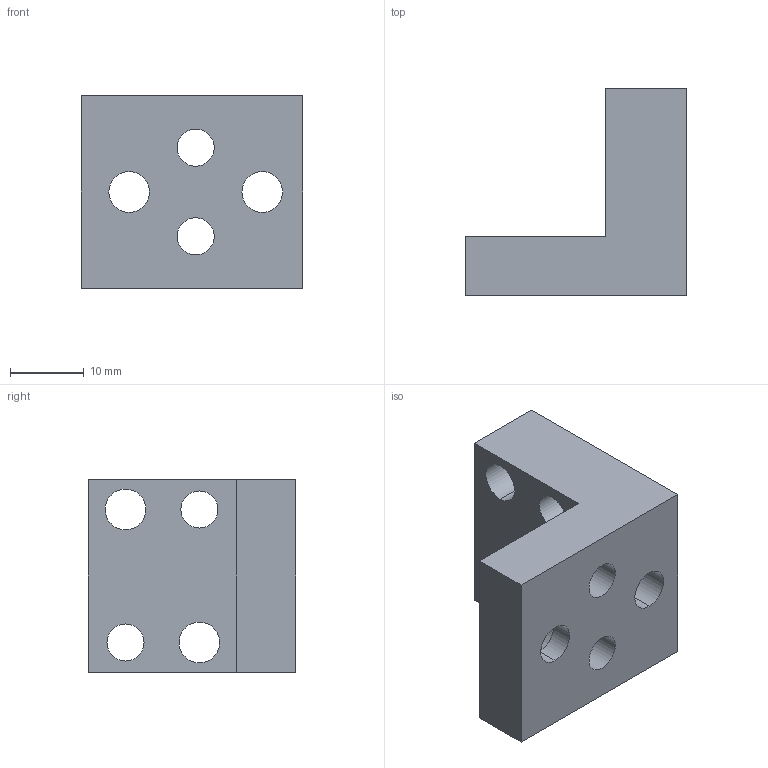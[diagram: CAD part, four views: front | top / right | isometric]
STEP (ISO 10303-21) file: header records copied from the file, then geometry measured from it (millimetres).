
FILE_DESCRIPTION (( 'STEP AP203' ), '1' );
FILE_NAME ('PPE32-L.step', '2017-02-15T12:25:36', ( '' ), ( '' ), 'SwSTEP 2.0', 'SolidWorks 2012', '' );
FILE_SCHEMA (( 'CONFIG_CONTROL_DESIGN' ));
Length unit declared in the file: millimetre
Products named in the file (1): PPE32-L
Bounding box: 30 x 28 x 26 mm (x, y, z)
Volume: 9157.4 mm3; surface area: 5369.7 mm2
Topology: 1 solids, 1 shells, 30 faces, 78 edges, 52 vertices
Faces by surface type: cylinder 20, plane 10
Entity records: 1051 total; most frequent: DIRECTION 180, CARTESIAN_POINT 161, ORIENTED_EDGE 156, EDGE_CURVE 78, AXIS2_PLACEMENT_3D 71, VERTEX_POINT 52, EDGE_LOOP 48, CIRCLE 40
